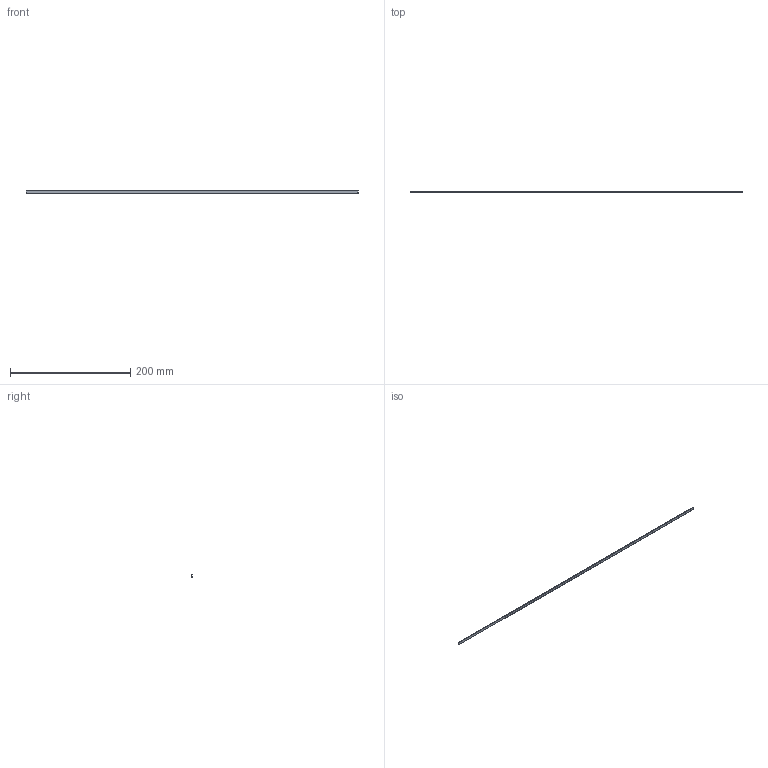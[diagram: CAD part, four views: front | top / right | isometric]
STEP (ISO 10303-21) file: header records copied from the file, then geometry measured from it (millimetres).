
FILE_DESCRIPTION (( 'STEP AP214' ), '1' );
FILE_NAME ('Posic_TPLS02.STEP', '2018-07-20T05:40:34', ( '' ), ( '' ), 'SwSTEP 2.0', 'SolidWorks 2018', '' );
FILE_SCHEMA (( 'AUTOMOTIVE_DESIGN' ));
Length unit declared in the file: millimetre
Products named in the file (1): Posic_TPLS02
Bounding box: 552.96 x 0.92 x 4.4 mm (x, y, z)
Volume: 2200.6 mm3; surface area: 6000.1 mm2
Topology: 1 solids, 1 shells, 2171 faces, 5208 edges, 3472 vertices
Faces by surface type: plane 2171
Entity records: 85491 total; most frequent: CARTESIAN_POINT 10852, ORIENTED_EDGE 10416, DIRECTION 9552, VECTOR 5208, EDGE_CURVE 5208, LINE 5208, VERTEX_POINT 3472, EDGE_LOOP 2604
